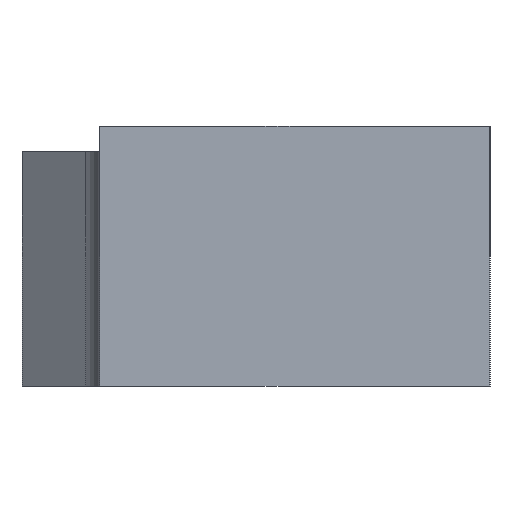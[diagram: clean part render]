
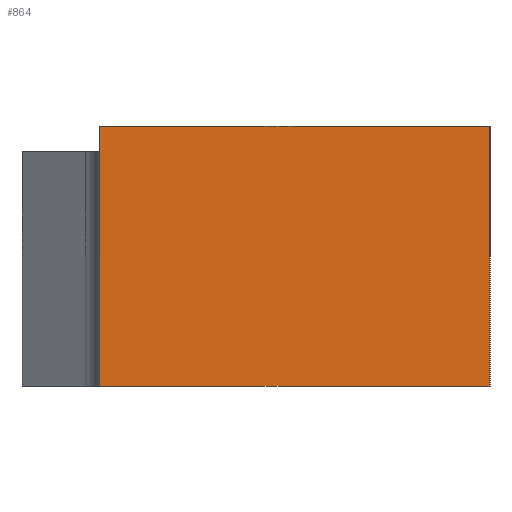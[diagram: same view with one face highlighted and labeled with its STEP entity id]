
A CAD part, left-side view. The second image highlights one B-rep face of the part: STEP entity #864.
In plain terms, the highlighted planar face has unit normal (-1, 0, 0).
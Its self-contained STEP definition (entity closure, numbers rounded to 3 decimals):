
#1 = VERTEX_POINT ( 'NONE', #811 ) ;
#50 = ORIENTED_EDGE ( 'NONE', *, *, #400, .T. ) ;
#60 = PLANE ( 'NONE',  #96 ) ;
#96 = AXIS2_PLACEMENT_3D ( 'NONE', #867, #715, #484 ) ;
#248 = CARTESIAN_POINT ( 'NONE',  ( -20., 0., 10. ) ) ;
#249 = EDGE_CURVE ( 'NONE', #1, #746, #565, .T. ) ;
#283 = VERTEX_POINT ( 'NONE', #869 ) ;
#284 = CARTESIAN_POINT ( 'NONE',  ( -20., 15., 0. ) ) ;
#352 = DIRECTION ( 'NONE',  ( 0., 1., 0. ) ) ;
#399 = VECTOR ( 'NONE', #517, 1000. ) ;
#400 = EDGE_CURVE ( 'NONE', #283, #996, #909, .T. ) ;
#412 = ORIENTED_EDGE ( 'NONE', *, *, #777, .T. ) ;
#424 = ORIENTED_EDGE ( 'NONE', *, *, #728, .F. ) ;
#477 = DIRECTION ( 'NONE',  ( 0., 0., -1. ) ) ;
#484 = DIRECTION ( 'NONE',  ( 0., -1., 0. ) ) ;
#517 = DIRECTION ( 'NONE',  ( 0., 0., -1. ) ) ;
#525 = FACE_OUTER_BOUND ( 'NONE', #773, .T. ) ;
#550 = LINE ( 'NONE', #851, #873 ) ;
#565 = LINE ( 'NONE', #248, #950 ) ;
#668 = CARTESIAN_POINT ( 'NONE',  ( -20., 15., 10. ) ) ;
#678 = CARTESIAN_POINT ( 'NONE',  ( -20., 0., 0. ) ) ;
#697 = CARTESIAN_POINT ( 'NONE',  ( -20., 15., 0. ) ) ;
#715 = DIRECTION ( 'NONE',  ( 1., 0., 0. ) ) ;
#728 = EDGE_CURVE ( 'NONE', #746, #996, #982, .T. ) ;
#746 = VERTEX_POINT ( 'NONE', #678 ) ;
#767 = ORIENTED_EDGE ( 'NONE', *, *, #249, .F. ) ;
#773 = EDGE_LOOP ( 'NONE', ( #424, #767, #412, #50 ) ) ;
#777 = EDGE_CURVE ( 'NONE', #1, #283, #550, .T. ) ;
#781 = VECTOR ( 'NONE', #826, 1000. ) ;
#811 = CARTESIAN_POINT ( 'NONE',  ( -20., 0., 10. ) ) ;
#826 = DIRECTION ( 'NONE',  ( 0., 1., 0. ) ) ;
#851 = CARTESIAN_POINT ( 'NONE',  ( -20., 15., 10. ) ) ;
#864 = ADVANCED_FACE ( 'NONE', ( #525 ), #60, .F. ) ;
#867 = CARTESIAN_POINT ( 'NONE',  ( -20., 15., 10. ) ) ;
#869 = CARTESIAN_POINT ( 'NONE',  ( -20., 15., 10. ) ) ;
#873 = VECTOR ( 'NONE', #352, 1000. ) ;
#909 = LINE ( 'NONE', #668, #399 ) ;
#950 = VECTOR ( 'NONE', #477, 1000. ) ;
#982 = LINE ( 'NONE', #284, #781 ) ;
#996 = VERTEX_POINT ( 'NONE', #697 ) ;
